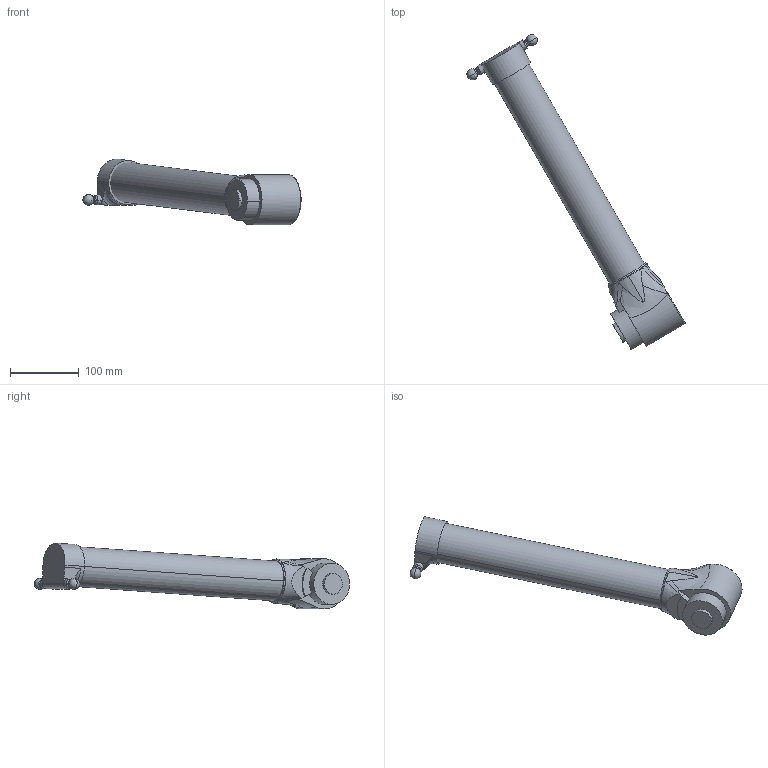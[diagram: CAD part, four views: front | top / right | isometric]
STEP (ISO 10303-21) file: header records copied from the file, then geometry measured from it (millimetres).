
FILE_DESCRIPTION (( 'STEP AP214' ), '1' );
FILE_NAME ('IRB360_X-1600-STD-4D_rev04_UA3_CAD.step', '2025-01-27T14:53:46', ( '' ), ( '' ), 'SwSTEP 2.0', 'SolidWorks 2022', '' );
FILE_SCHEMA (( 'AUTOMOTIVE_DESIGN' ));
Length unit declared in the file: millimetre
Products named in the file (1): IRB360_X-1600-STD-4D_rev04_UA3_CAD
Bounding box: 317.09 x 457.96 x 95.82 mm (x, y, z)
Volume: 1558472.1 mm3; surface area: 133315 mm2
Topology: 5 solids, 5 shells, 98 faces, 229 edges, 141 vertices
Faces by surface type: cylinder 21, plane 21, bspline 19, torus 17, cone 16, sphere 4
Entity records: 4477 total; most frequent: CARTESIAN_POINT 2118, DIRECTION 451, ORIENTED_EDGE 438, EDGE_CURVE 219, AXIS2_PLACEMENT_3D 201, VERTEX_POINT 135, CIRCLE 121, EDGE_LOOP 102
